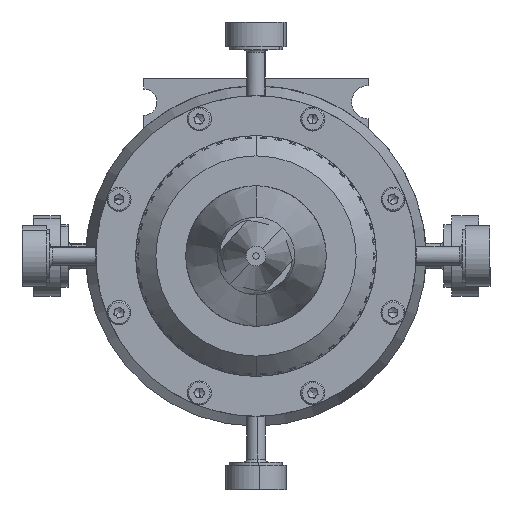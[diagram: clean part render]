
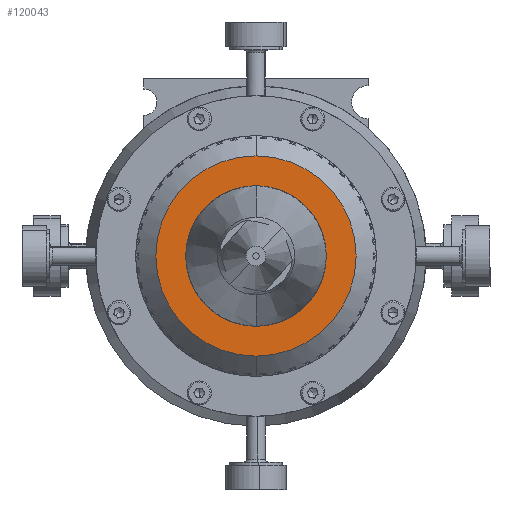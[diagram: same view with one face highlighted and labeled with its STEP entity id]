
A CAD part, front view. The second image highlights one B-rep face of the part: STEP entity #120043.
In plain terms, the highlighted planar face has unit normal (0, -1, 0).
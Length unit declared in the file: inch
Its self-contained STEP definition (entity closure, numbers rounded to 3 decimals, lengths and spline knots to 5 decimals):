
#2007 = EDGE_CURVE ( 'NONE', #10862, #25593, #53101, .T. ) ;
#4594 = CIRCLE ( 'NONE', #90112, 0.4375 ) ;
#6308 = DIRECTION ( 'NONE',  ( 0., 0., -1. ) ) ;
#10862 = VERTEX_POINT ( 'NONE', #59264 ) ;
#11654 = AXIS2_PLACEMENT_3D ( 'NONE', #45635, #77056, #6308 ) ;
#19777 = FACE_OUTER_BOUND ( 'NONE', #112715, .T. ) ;
#21499 = DIRECTION ( 'NONE',  ( 0., 1., 0. ) ) ;
#25186 = ORIENTED_EDGE ( 'NONE', *, *, #67773, .T. ) ;
#25593 = VERTEX_POINT ( 'NONE', #127378 ) ;
#29728 = VERTEX_POINT ( 'NONE', #77828 ) ;
#31579 = DIRECTION ( 'NONE',  ( 0., 0., -1. ) ) ;
#34228 = CARTESIAN_POINT ( 'NONE',  ( 0., -0.65241, 0. ) ) ;
#38600 = CARTESIAN_POINT ( 'NONE',  ( 0., -0.65241, 0.625 ) ) ;
#41711 = CARTESIAN_POINT ( 'NONE',  ( 0., -0.65241, 0. ) ) ;
#42527 = DIRECTION ( 'NONE',  ( 0., 0., -1. ) ) ;
#45635 = CARTESIAN_POINT ( 'NONE',  ( 0.5, -0.65241, 0. ) ) ;
#53101 = CIRCLE ( 'NONE', #80793, 0.4375 ) ;
#54274 = DIRECTION ( 'NONE',  ( 0., -1., 0. ) ) ;
#55952 = VERTEX_POINT ( 'NONE', #38600 ) ;
#56340 = CARTESIAN_POINT ( 'NONE',  ( 0., -0.65241, 0. ) ) ;
#59264 = CARTESIAN_POINT ( 'NONE',  ( 0.4375, -0.65241, 0. ) ) ;
#60387 = ORIENTED_EDGE ( 'NONE', *, *, #84354, .T. ) ;
#64035 = AXIS2_PLACEMENT_3D ( 'NONE', #34228, #54274, #42527 ) ;
#64878 = CIRCLE ( 'NONE', #64035, 0.625 ) ;
#65473 = DIRECTION ( 'NONE',  ( 0., -1., 0. ) ) ;
#67773 = EDGE_CURVE ( 'NONE', #55952, #29728, #64878, .T. ) ;
#68269 = ORIENTED_EDGE ( 'NONE', *, *, #75992, .T. ) ;
#74959 = EDGE_LOOP ( 'NONE', ( #60387, #75484 ) ) ;
#75484 = ORIENTED_EDGE ( 'NONE', *, *, #2007, .T. ) ;
#75992 = EDGE_CURVE ( 'NONE', #29728, #55952, #108980, .T. ) ;
#77056 = DIRECTION ( 'NONE',  ( 0., -1., 0. ) ) ;
#77828 = CARTESIAN_POINT ( 'NONE',  ( 0., -0.65241, -0.625 ) ) ;
#80793 = AXIS2_PLACEMENT_3D ( 'NONE', #121446, #21499, #31579 ) ;
#82262 = DIRECTION ( 'NONE',  ( 0., 0., -1. ) ) ;
#84354 = EDGE_CURVE ( 'NONE', #25593, #10862, #4594, .T. ) ;
#86066 = AXIS2_PLACEMENT_3D ( 'NONE', #56340, #65473, #106928 ) ;
#90112 = AXIS2_PLACEMENT_3D ( 'NONE', #41711, #111505, #82262 ) ;
#106928 = DIRECTION ( 'NONE',  ( 0., 0., -1. ) ) ;
#108980 = CIRCLE ( 'NONE', #86066, 0.625 ) ;
#111505 = DIRECTION ( 'NONE',  ( 0., 1., 0. ) ) ;
#112715 = EDGE_LOOP ( 'NONE', ( #25186, #68269 ) ) ;
#115904 = PLANE ( 'NONE',  #11654 ) ;
#120043 = ADVANCED_FACE ( 'NONE', ( #125970, #19777 ), #115904, .T. ) ;
#121446 = CARTESIAN_POINT ( 'NONE',  ( 0., -0.65241, 0. ) ) ;
#125970 = FACE_BOUND ( 'NONE', #74959, .T. ) ;
#127378 = CARTESIAN_POINT ( 'NONE',  ( -0.4375, -0.65241, 0. ) ) ;
